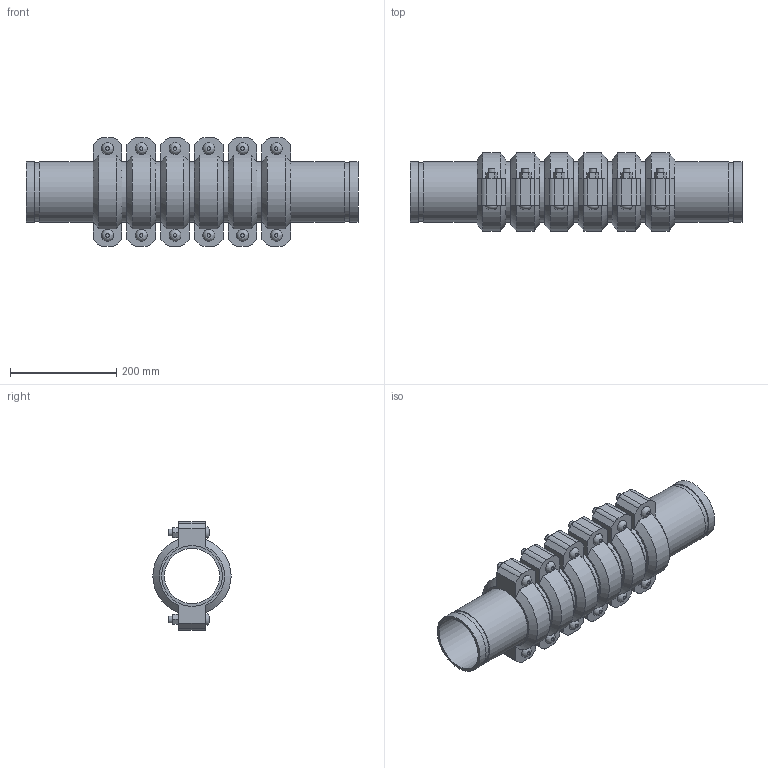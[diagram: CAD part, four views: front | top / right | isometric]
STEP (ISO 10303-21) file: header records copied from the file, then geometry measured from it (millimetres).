
FILE_DESCRIPTION(/* description */ ('VIC SS EXPANSION JOINT 6 COUPLINGS NEUTRAL STYLE 155P (OGS) (POTABLE WATER) ','CAx-IF Rec.Pracs.---Representation and Presentation of Product Manufacturing Information (PMI)---4.0---2014-10-13'),/* implementation_level */ '2;1');
FILE_NAME(/* name */ 'C:\Users\kkamble\AppData\Roaming\Autodesk\ApplicationPlugins\Victaulic.Temp\A292\Victaulic_SS_Expansion Joint_Neutral_6 Couplings_Style 155P (OGS)-Potable Water_6 Coup_Neut_4 (100).stp',/* time_stamp */ '2021-07-16T16:36:06+05:00',/* author */ ('kkamble'),/* organization */ ('Victaulic'),/* preprocessor_version */ 'ST-DEVELOPER v17.2',/* originating_system */ 'Autodesk Inventor 2019',/* authorisation */ '');
FILE_SCHEMA (('AP242_MANAGED_MODEL_BASED_3D_ENGINEERING_MIM_LF { 1 0 10303 442 1 1 4 }'));
Length unit declared in the file: inch
Products named in the file (4): 155-04.0; Nipple-04.0; Nipple-04.0_1; 075-04.0
Assembly tree (13 placements, depth 2):
  155-04.0
    Nipple-04.0  x2
    Nipple-04.0_1  x5
    075-04.0  x6
Bounding box: 625.35 x 147.32 x 203.96 mm (x, y, z)
Volume: 3874434 mm3; surface area: 927941.3 mm2
Topology: 13 solids, 25 shells, 426 faces, 1008 edges, 708 vertices
Faces by surface type: plane 258, cylinder 132, cone 24, bspline 12
Full cylindrical faces by diameter (mm): 12.7 x24, 14.605 x12, 103.988 x7, 107.95 x6, 110.084 x14, 114.3 x33
Entity records: 2817 total; most frequent: CARTESIAN_POINT 497, DIRECTION 469, ORIENTED_EDGE 386, EDGE_CURVE 193, AXIS2_PLACEMENT_3D 188, VERTEX_POINT 138, EDGE_LOOP 107, LINE 93
